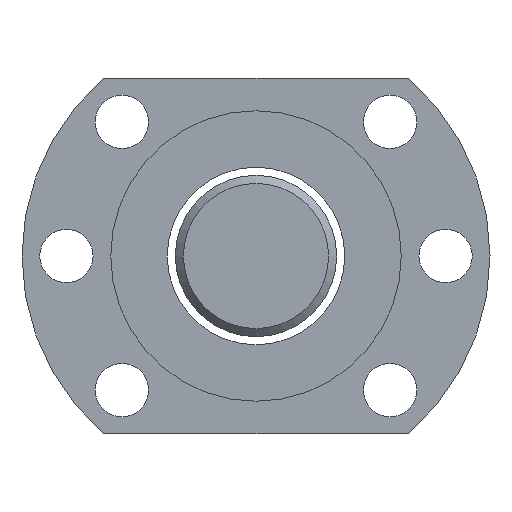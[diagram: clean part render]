
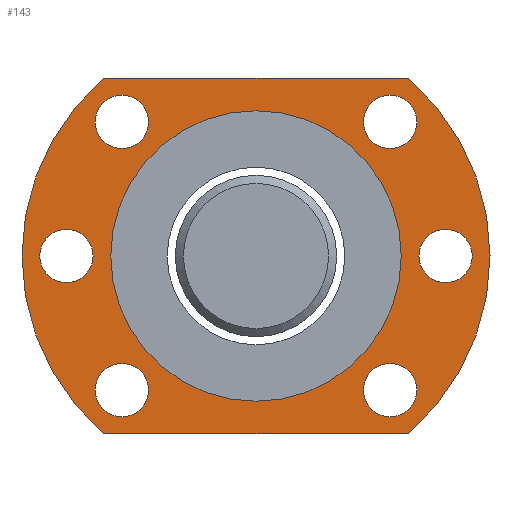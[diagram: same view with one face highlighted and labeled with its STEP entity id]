
A CAD part, left-side view. The second image highlights one B-rep face of the part: STEP entity #143.
In plain terms, the highlighted planar face has unit normal (-1, 0, 0).
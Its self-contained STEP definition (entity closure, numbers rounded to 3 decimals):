
#115=LINE('',#622,#123);
#116=LINE('',#626,#124);
#123=VECTOR('',#520,1.);
#124=VECTOR('',#523,1.);
#132=PLANE('',#452);
#143=ADVANCED_FACE('',(#189,#190,#191,#192,#193,#194,#195,#196),#132,.T.);
#189=FACE_BOUND('',#233,.T.);
#190=FACE_BOUND('',#234,.T.);
#191=FACE_BOUND('',#235,.T.);
#192=FACE_BOUND('',#236,.T.);
#193=FACE_BOUND('',#237,.T.);
#194=FACE_BOUND('',#238,.T.);
#195=FACE_BOUND('',#239,.T.);
#196=FACE_BOUND('',#240,.T.);
#233=EDGE_LOOP('',(#286));
#234=EDGE_LOOP('',(#287));
#235=EDGE_LOOP('',(#288,#289,#290,#291));
#236=EDGE_LOOP('',(#292));
#237=EDGE_LOOP('',(#293));
#238=EDGE_LOOP('',(#294));
#239=EDGE_LOOP('',(#295));
#240=EDGE_LOOP('',(#296));
#286=ORIENTED_EDGE('',*,*,#379,.T.);
#287=ORIENTED_EDGE('',*,*,#368,.F.);
#288=ORIENTED_EDGE('',*,*,#380,.T.);
#289=ORIENTED_EDGE('',*,*,#381,.T.);
#290=ORIENTED_EDGE('',*,*,#382,.T.);
#291=ORIENTED_EDGE('',*,*,#383,.T.);
#292=ORIENTED_EDGE('',*,*,#384,.F.);
#293=ORIENTED_EDGE('',*,*,#385,.F.);
#294=ORIENTED_EDGE('',*,*,#386,.F.);
#295=ORIENTED_EDGE('',*,*,#387,.T.);
#296=ORIENTED_EDGE('',*,*,#388,.T.);
#338=VERTEX_POINT('',#594);
#349=VERTEX_POINT('',#618);
#350=VERTEX_POINT('',#620);
#351=VERTEX_POINT('',#621);
#352=VERTEX_POINT('',#623);
#353=VERTEX_POINT('',#625);
#354=VERTEX_POINT('',#628);
#355=VERTEX_POINT('',#630);
#356=VERTEX_POINT('',#632);
#357=VERTEX_POINT('',#634);
#358=VERTEX_POINT('',#636);
#368=EDGE_CURVE('',#338,#338,#402,.T.);
#379=EDGE_CURVE('',#349,#349,#411,.T.);
#380=EDGE_CURVE('',#350,#351,#412,.T.);
#381=EDGE_CURVE('',#351,#352,#115,.T.);
#382=EDGE_CURVE('',#352,#353,#413,.T.);
#383=EDGE_CURVE('',#353,#350,#116,.T.);
#384=EDGE_CURVE('',#354,#354,#414,.T.);
#385=EDGE_CURVE('',#355,#355,#415,.T.);
#386=EDGE_CURVE('',#356,#356,#416,.T.);
#387=EDGE_CURVE('',#357,#357,#417,.T.);
#388=EDGE_CURVE('',#358,#358,#418,.T.);
#402=CIRCLE('',#433,18.);
#411=CIRCLE('',#444,3.3);
#412=CIRCLE('',#445,29.);
#413=CIRCLE('',#446,29.);
#414=CIRCLE('',#447,3.3);
#415=CIRCLE('',#448,3.3);
#416=CIRCLE('',#449,3.3);
#417=CIRCLE('',#450,3.3);
#418=CIRCLE('',#451,3.3);
#433=AXIS2_PLACEMENT_3D('',#593,#492,#493);
#444=AXIS2_PLACEMENT_3D('',#617,#516,#517);
#445=AXIS2_PLACEMENT_3D('',#619,#518,#519);
#446=AXIS2_PLACEMENT_3D('',#624,#521,#522);
#447=AXIS2_PLACEMENT_3D('',#627,#524,#525);
#448=AXIS2_PLACEMENT_3D('',#629,#526,#527);
#449=AXIS2_PLACEMENT_3D('',#631,#528,#529);
#450=AXIS2_PLACEMENT_3D('',#633,#530,#531);
#451=AXIS2_PLACEMENT_3D('',#635,#532,#533);
#452=AXIS2_PLACEMENT_3D('',#637,#534,#535);
#492=DIRECTION('',(-1.,0.,0.));
#493=DIRECTION('',(0.,0.,-1.));
#516=DIRECTION('',(1.,0.,0.));
#517=DIRECTION('',(0.,0.,1.));
#518=DIRECTION('',(-1.,0.,0.));
#519=DIRECTION('',(0.,0.,-1.));
#520=DIRECTION('',(0.,-1.,0.));
#521=DIRECTION('',(-1.,0.,0.));
#522=DIRECTION('',(0.,0.,-1.));
#523=DIRECTION('',(0.,1.,0.));
#524=DIRECTION('',(-1.,0.,0.));
#525=DIRECTION('',(0.,0.,1.));
#526=DIRECTION('',(-1.,0.,0.));
#527=DIRECTION('',(0.,0.,1.));
#528=DIRECTION('',(-1.,0.,0.));
#529=DIRECTION('',(0.,0.,1.));
#530=DIRECTION('',(1.,0.,0.));
#531=DIRECTION('',(0.,0.,1.));
#532=DIRECTION('',(1.,0.,0.));
#533=DIRECTION('',(0.,0.,1.));
#534=DIRECTION('',(-1.,0.,0.));
#535=DIRECTION('',(0.,0.,-1.));
#593=CARTESIAN_POINT('',(37.833,-32.074,19.165));
#594=CARTESIAN_POINT('',(37.833,-32.074,1.165));
#617=CARTESIAN_POINT('',(37.833,-55.574,19.165));
#618=CARTESIAN_POINT('',(37.833,-55.574,22.465));
#619=CARTESIAN_POINT('',(37.833,-32.074,19.165));
#620=CARTESIAN_POINT('',(37.833,-13.179,41.165));
#621=CARTESIAN_POINT('',(37.833,-13.179,-2.835));
#622=CARTESIAN_POINT('',(37.833,-13.179,-2.835));
#623=CARTESIAN_POINT('',(37.833,-50.968,-2.835));
#624=CARTESIAN_POINT('',(37.833,-32.074,19.165));
#625=CARTESIAN_POINT('',(37.833,-50.968,41.165));
#626=CARTESIAN_POINT('',(37.833,-50.968,41.165));
#627=CARTESIAN_POINT('',(37.833,-8.574,19.165));
#628=CARTESIAN_POINT('',(37.833,-8.574,22.465));
#629=CARTESIAN_POINT('',(37.833,-15.457,35.782));
#630=CARTESIAN_POINT('',(37.833,-15.457,39.082));
#631=CARTESIAN_POINT('',(37.833,-15.457,2.548));
#632=CARTESIAN_POINT('',(37.833,-15.457,5.848));
#633=CARTESIAN_POINT('',(37.833,-48.691,2.548));
#634=CARTESIAN_POINT('',(37.833,-48.691,5.848));
#635=CARTESIAN_POINT('',(37.833,-48.691,35.782));
#636=CARTESIAN_POINT('',(37.833,-48.691,39.082));
#637=CARTESIAN_POINT('',(37.833,-32.074,19.165));
